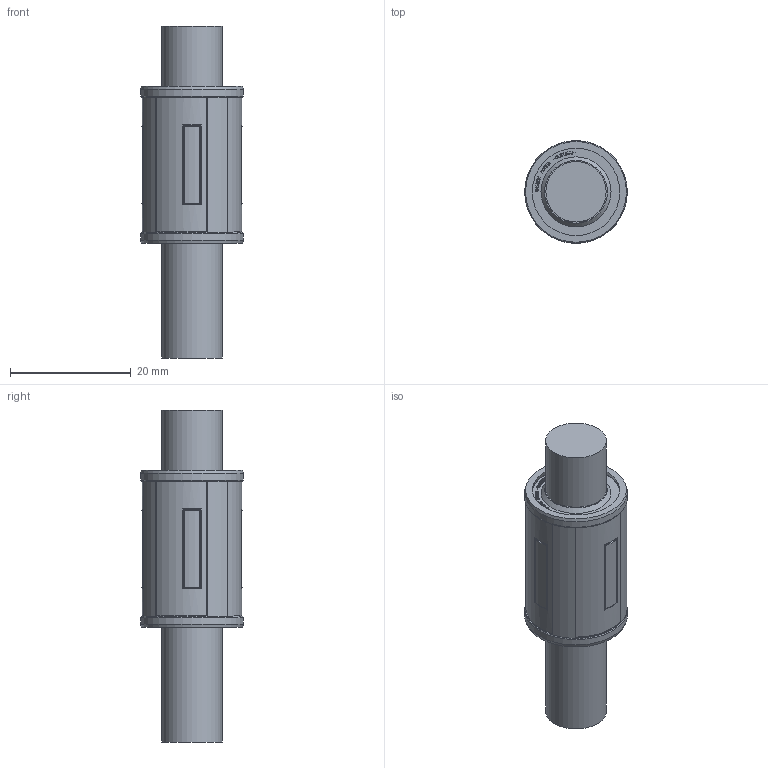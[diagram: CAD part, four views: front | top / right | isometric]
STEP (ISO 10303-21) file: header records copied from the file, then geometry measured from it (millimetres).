
FILE_DESCRIPTION(/* description */ (''),/* implementation_level */ '2;1');
FILE_NAME(/* name */ 'C:\Users\조경제\OneDrive - mysamick.com\바탕 화면\STP\STP_rev1\CLB10UU.stp',/* time_stamp */ '2025-02-05T13:48:30+09:00',/* author */ ('조경제'),/* organization */ (''),/* preprocessor_version */ 'ST-DEVELOPER v17',/* originating_system */ 'Autodesk Inventor 2019',/* authorisation */ '');
FILE_SCHEMA (('AUTOMOTIVE_DESIGN { 1 0 10303 214 3 1 1 }'));
Length unit declared in the file: millimetre
Products named in the file (1): CLB10UU
Bounding box: 17 x 17 x 55 mm (x, y, z)
Volume: 7833.5 mm3; surface area: 3086.2 mm2
Topology: 1 solids, 1 shells, 1052 faces, 2874 edges, 1898 vertices
Faces by surface type: bspline 656, plane 308, cylinder 54, sphere 16, torus 10, cone 8
Full cylindrical faces by diameter (mm): 10 x2, 14.6 x2, 14.9 x2, 15 x2, 17 x2
Entity records: 36081 total; most frequent: CARTESIAN_POINT 12745, ORIENTED_EDGE 5748, EDGE_CURVE 2874, DIRECTION 2520, VERTEX_POINT 1898, LINE 1366, VECTOR 1366, B_SPLINE_CURVE_WITH_KNOTS 1328
